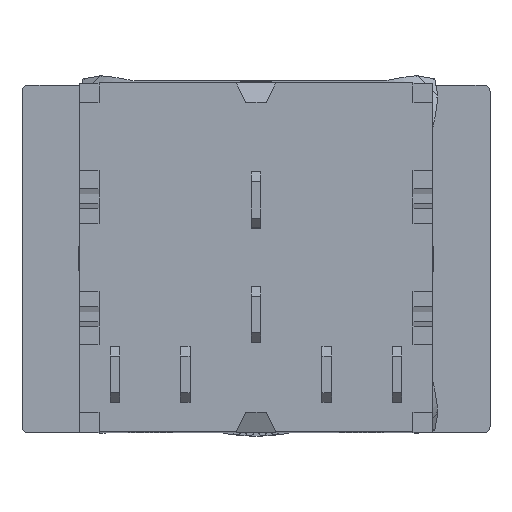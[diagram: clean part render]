
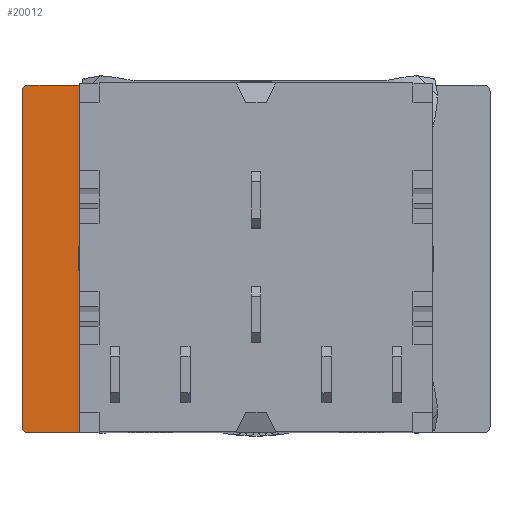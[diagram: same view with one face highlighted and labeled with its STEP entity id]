
A CAD part, top view. The second image highlights one B-rep face of the part: STEP entity #20012.
In plain terms, the highlighted planar face has unit normal (0, 0, 1).
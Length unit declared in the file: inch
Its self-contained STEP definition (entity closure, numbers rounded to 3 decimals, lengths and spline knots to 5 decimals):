
#688=CARTESIAN_POINT('',(12.,8.95,-48.6));
#689=DIRECTION('',(0.,0.,1.));
#690=DIRECTION('',(-0.149,0.989,0.));
#691=AXIS2_PLACEMENT_3D('',#688,#689,#690);
#693=CARTESIAN_POINT('',(12.,8.95,-48.6));
#694=DIRECTION('',(0.,0.,1.));
#695=DIRECTION('',(-1.,0.,0.));
#696=AXIS2_PLACEMENT_3D('',#693,#694,#695);
#698=CARTESIAN_POINT('',(0.3,0.35,-48.6));
#699=DIRECTION('',(0.,0.,-1.));
#700=DIRECTION('',(0.,-1.,0.));
#701=AXIS2_PLACEMENT_3D('',#698,#699,#700);
#703=CARTESIAN_POINT('',(0.3,17.55,-48.6));
#704=DIRECTION('',(0.,0.,-1.));
#705=DIRECTION('',(-1.,0.,0.));
#706=AXIS2_PLACEMENT_3D('',#703,#704,#705);
#708=DIRECTION('',(0.17,-0.985,0.));
#709=VECTOR('',#708,0.56715);
#710=CARTESIAN_POINT('',(3.46991,17.84829,-48.6));
#711=LINE('',#710,#709);
#712=DIRECTION('',(0.707,0.707,0.));
#713=VECTOR('',#712,0.65268);
#714=CARTESIAN_POINT('',(3.56634,17.2894,-48.6));
#715=LINE('',#714,#713);
#716=CARTESIAN_POINT('',(3.46991,17.84829,-48.6));
#717=CARTESIAN_POINT('',(3.65671,17.81625,-48.6));
#718=CARTESIAN_POINT('',(3.84106,17.78296,-48.6));
#719=CARTESIAN_POINT('',(4.02786,17.75091,-48.6));
#731=DIRECTION('',(0.169,0.986,0.));
#732=VECTOR('',#731,0.60198);
#733=CARTESIAN_POINT('',(3.46455,0.48157,-48.6));
#734=LINE('',#733,#732);
#735=DIRECTION('',(0.986,0.169,0.));
#736=VECTOR('',#735,0.60198);
#737=CARTESIAN_POINT('',(3.46455,0.48157,-48.6));
#738=LINE('',#737,#736);
#739=DIRECTION('',(0.707,-0.707,0.));
#740=VECTOR('',#739,0.6951);
#741=CARTESIAN_POINT('',(3.56634,1.07488,-48.6));
#742=LINE('',#741,#740);
#1259=DIRECTION('',(1.,0.,0.));
#1260=VECTOR('',#1259,10.36209);
#1261=CARTESIAN_POINT('',(0.3,0.05,-48.6));
#1262=LINE('',#1261,#1260);
#1291=DIRECTION('',(-1.,0.,0.));
#1292=VECTOR('',#1291,7.19218);
#1293=CARTESIAN_POINT('',(10.66209,17.85,-48.6));
#1294=LINE('',#1293,#1292);
#1295=DIRECTION('',(-1.,0.001,0.));
#1296=VECTOR('',#1295,3.16991);
#1297=CARTESIAN_POINT('',(3.46991,17.84829,-48.6));
#1298=LINE('',#1297,#1296);
#1327=DIRECTION('',(0.,-1.,0.));
#1328=VECTOR('',#1327,17.2);
#1329=CARTESIAN_POINT('',(0.,17.55,-48.6));
#1330=LINE('',#1329,#1328);
#17114=CARTESIAN_POINT('',(0.3,0.05,-48.6));
#17115=CARTESIAN_POINT('',(0.,0.35,-48.6));
#17116=VERTEX_POINT('',#17114);
#17117=VERTEX_POINT('',#17115);
#17118=CARTESIAN_POINT('',(0.,17.55,-48.6));
#17119=VERTEX_POINT('',#17118);
#17120=CARTESIAN_POINT('',(0.3,17.85,-48.6));
#17121=VERTEX_POINT('',#17120);
#18868=CARTESIAN_POINT('',(10.66209,17.85,-48.6));
#18869=CARTESIAN_POINT('',(3.,8.95,-48.6));
#18870=VERTEX_POINT('',#18868);
#18871=VERTEX_POINT('',#18869);
#18872=CARTESIAN_POINT('',(10.66209,0.05,-48.6));
#18873=VERTEX_POINT('',#18872);
#18900=CARTESIAN_POINT('',(3.46991,17.84829,-48.6));
#18901=CARTESIAN_POINT('',(3.56634,17.2894,-48.6));
#18902=VERTEX_POINT('',#18900);
#18903=VERTEX_POINT('',#18901);
#18904=CARTESIAN_POINT('',(3.46455,0.48157,-48.6));
#18905=CARTESIAN_POINT('',(3.56634,1.07488,-48.6));
#18906=VERTEX_POINT('',#18904);
#18907=VERTEX_POINT('',#18905);
#18908=CARTESIAN_POINT('',(4.05786,0.58337,-48.6));
#18909=VERTEX_POINT('',#18908);
#18910=CARTESIAN_POINT('',(4.02786,17.75091,-48.6));
#18911=VERTEX_POINT('',#18910);
#19975=CARTESIAN_POINT('',(12.,8.95,-48.6));
#19976=DIRECTION('',(0.,0.,1.));
#19977=DIRECTION('',(0.,1.,0.));
#19978=AXIS2_PLACEMENT_3D('',#19975,#19976,#19977);
#19979=PLANE('',#19978);
#19981=ORIENTED_EDGE('',*,*,#19980,.T.);
#19983=ORIENTED_EDGE('',*,*,#19982,.T.);
#19985=ORIENTED_EDGE('',*,*,#19984,.F.);
#19987=ORIENTED_EDGE('',*,*,#19986,.T.);
#19989=ORIENTED_EDGE('',*,*,#19988,.F.);
#19991=ORIENTED_EDGE('',*,*,#19990,.T.);
#19993=ORIENTED_EDGE('',*,*,#19992,.F.);
#19995=ORIENTED_EDGE('',*,*,#19994,.T.);
#19997=ORIENTED_EDGE('',*,*,#19996,.T.);
#19999=ORIENTED_EDGE('',*,*,#19998,.F.);
#20001=ORIENTED_EDGE('',*,*,#20000,.F.);
#20002=EDGE_LOOP('',(#19981,#19983,#19985,#19987,#19989,#19991,#19993,#19995,
#19997,#19999,#20001));
#20003=FACE_OUTER_BOUND('',#20002,.F.);
#20005=ORIENTED_EDGE('',*,*,#20004,.F.);
#20007=ORIENTED_EDGE('',*,*,#20006,.T.);
#20009=ORIENTED_EDGE('',*,*,#20008,.F.);
#20010=EDGE_LOOP('',(#20005,#20007,#20009));
#20011=FACE_BOUND('',#20010,.F.);
#20012=ADVANCED_FACE('',(#20003,#20011),#19979,.T.);
#692=CIRCLE('',#691,9.);
#697=CIRCLE('',#696,9.);
#702=CIRCLE('',#701,0.3);
#707=CIRCLE('',#706,0.3);
#720=B_SPLINE_CURVE_WITH_KNOTS('',3,(#716,#717,#718,#719),.UNSPECIFIED.,.F.,.F.,
(4,4),(0.,1.),.UNSPECIFIED.);
#19980=EDGE_CURVE('',#18870,#18871,#692,.T.);
#19982=EDGE_CURVE('',#18871,#18873,#697,.T.);
#19984=EDGE_CURVE('',#17116,#18873,#1262,.T.);
#19986=EDGE_CURVE('',#17116,#17117,#702,.T.);
#19988=EDGE_CURVE('',#17119,#17117,#1330,.T.);
#19990=EDGE_CURVE('',#17119,#17121,#707,.T.);
#19992=EDGE_CURVE('',#18902,#17121,#1298,.T.);
#19994=EDGE_CURVE('',#18902,#18903,#711,.T.);
#19996=EDGE_CURVE('',#18903,#18911,#715,.T.);
#19998=EDGE_CURVE('',#18902,#18911,#720,.T.);
#20000=EDGE_CURVE('',#18870,#18902,#1294,.T.);
#20004=EDGE_CURVE('',#18906,#18907,#734,.T.);
#20006=EDGE_CURVE('',#18906,#18909,#738,.T.);
#20008=EDGE_CURVE('',#18907,#18909,#742,.T.);
